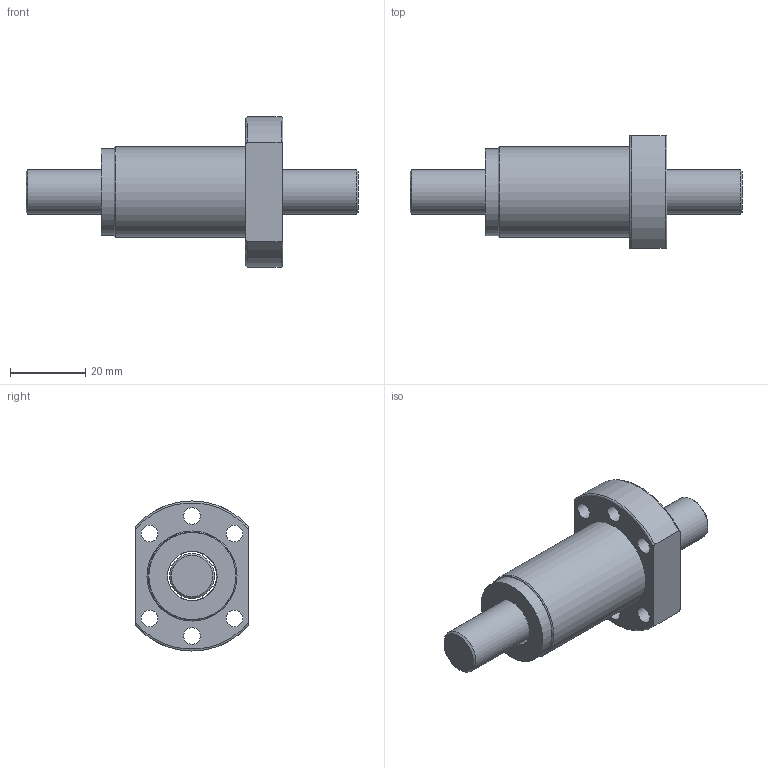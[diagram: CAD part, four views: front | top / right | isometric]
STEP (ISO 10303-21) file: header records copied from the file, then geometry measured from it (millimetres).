
FILE_DESCRIPTION(/* description */ (''),/* implementation_level */ '2;1');
FILE_NAME(/* name */ '',/* time_stamp */ '2009-08-25T13:24:21+08:00',/* author */ (''),/* organization */ (''),/* preprocessor_version */ 'ST-DEVELOPER v11',/* originating_system */ 'SIEMENS UGS NX 6.0',/* authorisation */ '');
FILE_SCHEMA (('CONFIG_CONTROL_DESIGN'));
Length unit declared in the file: millimetre
Products named in the file (1): SFS1210prt
Bounding box: 88.5 x 30 x 40 mm (x, y, z)
Volume: 30534.2 mm3; surface area: 13793.2 mm2
Topology: 4 solids, 4 shells, 35 faces, 73 edges, 48 vertices
Faces by surface type: cylinder 16, plane 12, torus 5, cone 2
Full cylindrical faces by diameter (mm): 4.5 x6, 12 x1, 13 x1, 13.209 x2, 23.209 x2, 24 x2
Entity records: 1100 total; most frequent: CARTESIAN_POINT 282, DIRECTION 158, ORIENTED_EDGE 110, AXIS2_PLACEMENT_3D 75, EDGE_LOOP 72, FACE_BOUND 62, EDGE_CURVE 55, VERTEX_POINT 47
